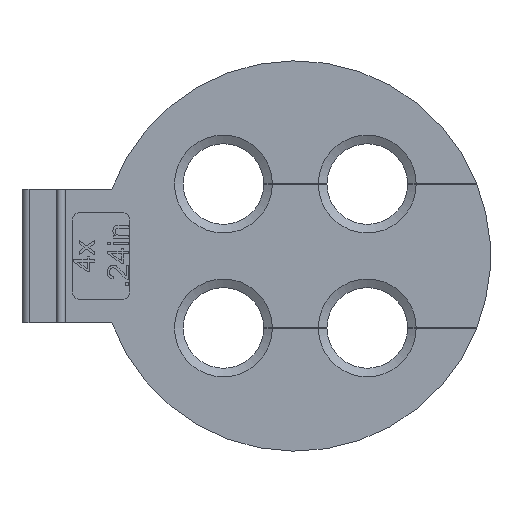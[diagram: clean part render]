
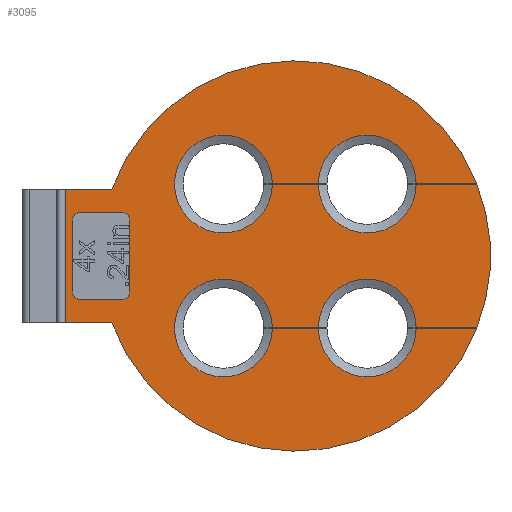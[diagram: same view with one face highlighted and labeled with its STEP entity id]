
A CAD part, left-side view. The second image highlights one B-rep face of the part: STEP entity #3095.
In plain terms, the highlighted planar face has unit normal (-1, 0, 0).
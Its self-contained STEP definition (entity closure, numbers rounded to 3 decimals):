
#65=FACE_BOUND('',#387,.T.);
#98=CIRCLE('',#3262,13.57);
#108=CIRCLE('',#3277,3.4);
#116=CIRCLE('',#3289,3.4);
#123=CIRCLE('',#3306,3.4);
#129=CIRCLE('',#3317,3.4);
#131=CIRCLE('',#3321,3.4);
#132=CIRCLE('',#3322,13.57);
#133=CIRCLE('',#3323,3.4);
#134=CIRCLE('',#3324,13.57);
#135=CIRCLE('',#3325,0.5);
#136=CIRCLE('',#3326,0.5);
#137=CIRCLE('',#3327,0.5);
#138=CIRCLE('',#3328,0.5);
#219=FACE_OUTER_BOUND('',#386,.T.);
#386=EDGE_LOOP('',(#2236,#2237,#2238,#2239,#2240,#2241,#2242,#2243,#2244,
#2245,#2246,#2247,#2248,#2249,#2250,#2251,#2252,#2253,#2254,#2255));
#387=EDGE_LOOP('',(#2256,#2257,#2258,#2259,#2260,#2261,#2262,#2263));
#539=LINE('',#4271,#898);
#555=LINE('',#4311,#914);
#566=LINE('',#4335,#925);
#570=LINE('',#4344,#929);
#597=LINE('',#4465,#956);
#607=LINE('',#4486,#966);
#610=LINE('',#4493,#969);
#618=LINE('',#4509,#977);
#627=LINE('',#4545,#986);
#628=LINE('',#4547,#987);
#629=LINE('',#4549,#988);
#630=LINE('',#4555,#989);
#631=LINE('',#4559,#990);
#632=LINE('',#4563,#991);
#633=LINE('',#4567,#992);
#898=VECTOR('',#3473,10.);
#914=VECTOR('',#3491,10.);
#925=VECTOR('',#3504,10.);
#929=VECTOR('',#3510,10.);
#956=VECTOR('',#3627,10.);
#966=VECTOR('',#3639,10.);
#969=VECTOR('',#3644,10.);
#977=VECTOR('',#3654,10.);
#986=VECTOR('',#3703,10.);
#987=VECTOR('',#3704,10.);
#988=VECTOR('',#3705,10.);
#989=VECTOR('',#3712,10.);
#990=VECTOR('',#3715,10.);
#991=VECTOR('',#3718,10.);
#992=VECTOR('',#3721,10.);
#1256=VERTEX_POINT('',#4267);
#1258=VERTEX_POINT('',#4270);
#1267=VERTEX_POINT('',#4291);
#1275=VERTEX_POINT('',#4309);
#1286=VERTEX_POINT('',#4332);
#1287=VERTEX_POINT('',#4334);
#1290=VERTEX_POINT('',#4341);
#1291=VERTEX_POINT('',#4343);
#1305=VERTEX_POINT('',#4377);
#1323=VERTEX_POINT('',#4450);
#1328=VERTEX_POINT('',#4463);
#1337=VERTEX_POINT('',#4483);
#1338=VERTEX_POINT('',#4485);
#1339=VERTEX_POINT('',#4489);
#1341=VERTEX_POINT('',#4492);
#1347=VERTEX_POINT('',#4506);
#1348=VERTEX_POINT('',#4508);
#1355=VERTEX_POINT('',#4544);
#1356=VERTEX_POINT('',#4546);
#1357=VERTEX_POINT('',#4548);
#1358=VERTEX_POINT('',#4553);
#1359=VERTEX_POINT('',#4554);
#1360=VERTEX_POINT('',#4556);
#1361=VERTEX_POINT('',#4558);
#1362=VERTEX_POINT('',#4560);
#1363=VERTEX_POINT('',#4562);
#1364=VERTEX_POINT('',#4564);
#1365=VERTEX_POINT('',#4566);
#1567=EDGE_CURVE('',#1258,#1256,#539,.T.);
#1585=EDGE_CURVE('',#1267,#1275,#555,.T.);
#1596=EDGE_CURVE('',#1287,#1286,#566,.T.);
#1600=EDGE_CURVE('',#1291,#1290,#570,.T.);
#1618=EDGE_CURVE('',#1305,#1275,#98,.T.);
#1635=EDGE_CURVE('',#1290,#1287,#108,.T.);
#1647=EDGE_CURVE('',#1286,#1267,#116,.T.);
#1659=EDGE_CURVE('',#1323,#1328,#597,.T.);
#1669=EDGE_CURVE('',#1338,#1337,#607,.T.);
#1672=EDGE_CURVE('',#1341,#1339,#610,.T.);
#1680=EDGE_CURVE('',#1348,#1347,#618,.T.);
#1691=EDGE_CURVE('',#1347,#1338,#123,.T.);
#1697=EDGE_CURVE('',#1339,#1348,#129,.T.);
#1699=EDGE_CURVE('',#1256,#1291,#131,.T.);
#1700=EDGE_CURVE('',#1305,#1355,#627,.T.);
#1701=EDGE_CURVE('',#1355,#1356,#628,.T.);
#1702=EDGE_CURVE('',#1356,#1357,#629,.T.);
#1703=EDGE_CURVE('',#1341,#1357,#132,.T.);
#1704=EDGE_CURVE('',#1337,#1323,#133,.T.);
#1705=EDGE_CURVE('',#1258,#1328,#134,.T.);
#1706=EDGE_CURVE('',#1358,#1359,#630,.T.);
#1707=EDGE_CURVE('',#1360,#1359,#135,.T.);
#1708=EDGE_CURVE('',#1360,#1361,#631,.T.);
#1709=EDGE_CURVE('',#1362,#1361,#136,.T.);
#1710=EDGE_CURVE('',#1362,#1363,#632,.T.);
#1711=EDGE_CURVE('',#1364,#1363,#137,.T.);
#1712=EDGE_CURVE('',#1364,#1365,#633,.T.);
#1713=EDGE_CURVE('',#1358,#1365,#138,.T.);
#2236=ORIENTED_EDGE('',*,*,#1567,.T.);
#2237=ORIENTED_EDGE('',*,*,#1699,.T.);
#2238=ORIENTED_EDGE('',*,*,#1600,.T.);
#2239=ORIENTED_EDGE('',*,*,#1635,.T.);
#2240=ORIENTED_EDGE('',*,*,#1596,.T.);
#2241=ORIENTED_EDGE('',*,*,#1647,.T.);
#2242=ORIENTED_EDGE('',*,*,#1585,.T.);
#2243=ORIENTED_EDGE('',*,*,#1618,.F.);
#2244=ORIENTED_EDGE('',*,*,#1700,.T.);
#2245=ORIENTED_EDGE('',*,*,#1701,.T.);
#2246=ORIENTED_EDGE('',*,*,#1702,.T.);
#2247=ORIENTED_EDGE('',*,*,#1703,.F.);
#2248=ORIENTED_EDGE('',*,*,#1672,.T.);
#2249=ORIENTED_EDGE('',*,*,#1697,.T.);
#2250=ORIENTED_EDGE('',*,*,#1680,.T.);
#2251=ORIENTED_EDGE('',*,*,#1691,.T.);
#2252=ORIENTED_EDGE('',*,*,#1669,.T.);
#2253=ORIENTED_EDGE('',*,*,#1704,.T.);
#2254=ORIENTED_EDGE('',*,*,#1659,.T.);
#2255=ORIENTED_EDGE('',*,*,#1705,.F.);
#2256=ORIENTED_EDGE('',*,*,#1706,.T.);
#2257=ORIENTED_EDGE('',*,*,#1707,.F.);
#2258=ORIENTED_EDGE('',*,*,#1708,.T.);
#2259=ORIENTED_EDGE('',*,*,#1709,.F.);
#2260=ORIENTED_EDGE('',*,*,#1710,.T.);
#2261=ORIENTED_EDGE('',*,*,#1711,.F.);
#2262=ORIENTED_EDGE('',*,*,#1712,.T.);
#2263=ORIENTED_EDGE('',*,*,#1713,.F.);
#2967=PLANE('',#3320);
#3095=ADVANCED_FACE('',(#219,#65),#2967,.F.);
#3262=AXIS2_PLACEMENT_3D('',#4379,#3539,#3540);
#3277=AXIS2_PLACEMENT_3D('',#4417,#3573,#3574);
#3289=AXIS2_PLACEMENT_3D('',#4439,#3601,#3602);
#3306=AXIS2_PLACEMENT_3D('',#4528,#3671,#3672);
#3317=AXIS2_PLACEMENT_3D('',#4539,#3693,#3694);
#3320=AXIS2_PLACEMENT_3D('',#4542,#3699,#3700);
#3321=AXIS2_PLACEMENT_3D('',#4543,#3701,#3702);
#3322=AXIS2_PLACEMENT_3D('',#4550,#3706,#3707);
#3323=AXIS2_PLACEMENT_3D('',#4551,#3708,#3709);
#3324=AXIS2_PLACEMENT_3D('',#4552,#3710,#3711);
#3325=AXIS2_PLACEMENT_3D('',#4557,#3713,#3714);
#3326=AXIS2_PLACEMENT_3D('',#4561,#3716,#3717);
#3327=AXIS2_PLACEMENT_3D('',#4565,#3719,#3720);
#3328=AXIS2_PLACEMENT_3D('',#4568,#3722,#3723);
#3473=DIRECTION('',(0.,1.,0.));
#3491=DIRECTION('',(0.,-1.,0.));
#3504=DIRECTION('',(0.,-1.,0.));
#3510=DIRECTION('',(0.,1.,0.));
#3539=DIRECTION('center_axis',(1.,0.,0.));
#3540=DIRECTION('ref_axis',(0.,0.,-1.));
#3573=DIRECTION('center_axis',(1.,0.,0.));
#3574=DIRECTION('ref_axis',(0.,0.,-1.));
#3601=DIRECTION('center_axis',(1.,0.,0.));
#3602=DIRECTION('ref_axis',(0.,1.,0.));
#3627=DIRECTION('',(0.,-1.,0.));
#3639=DIRECTION('',(0.,-1.,0.));
#3644=DIRECTION('',(0.,1.,0.));
#3654=DIRECTION('',(0.,1.,0.));
#3671=DIRECTION('center_axis',(1.,0.,0.));
#3672=DIRECTION('ref_axis',(0.,-1.,0.));
#3693=DIRECTION('center_axis',(1.,0.,0.));
#3694=DIRECTION('ref_axis',(0.,0.,1.));
#3699=DIRECTION('center_axis',(1.,0.,0.));
#3700=DIRECTION('ref_axis',(0.,0.,-1.));
#3701=DIRECTION('center_axis',(1.,0.,0.));
#3702=DIRECTION('ref_axis',(0.,1.,0.));
#3703=DIRECTION('',(0.,1.,0.));
#3704=DIRECTION('',(0.,0.,-1.));
#3705=DIRECTION('',(0.,-1.,0.));
#3706=DIRECTION('center_axis',(1.,0.,0.));
#3707=DIRECTION('ref_axis',(0.,0.,-1.));
#3708=DIRECTION('center_axis',(1.,0.,0.));
#3709=DIRECTION('ref_axis',(0.,0.,1.));
#3710=DIRECTION('center_axis',(1.,0.,0.));
#3711=DIRECTION('ref_axis',(0.,0.,-1.));
#3712=DIRECTION('',(0.,1.,0.));
#3713=DIRECTION('center_axis',(-1.,0.,0.));
#3714=DIRECTION('ref_axis',(0.,0.707,-0.707));
#3715=DIRECTION('',(0.,0.,1.));
#3716=DIRECTION('center_axis',(-1.,0.,0.));
#3717=DIRECTION('ref_axis',(0.,0.707,0.707));
#3718=DIRECTION('',(0.,-1.,0.));
#3719=DIRECTION('center_axis',(-1.,0.,0.));
#3720=DIRECTION('ref_axis',(0.,-0.707,0.707));
#3721=DIRECTION('',(0.,0.,-1.));
#3722=DIRECTION('center_axis',(-1.,0.,0.));
#3723=DIRECTION('ref_axis',(0.,-0.707,-0.707));
#4267=CARTESIAN_POINT('',(-0.8,-8.4,4.995));
#4270=CARTESIAN_POINT('',(-0.8,-12.617,4.995));
#4271=CARTESIAN_POINT('',(-0.8,-6.309,4.995));
#4291=CARTESIAN_POINT('',(-0.8,-8.4,5.005));
#4309=CARTESIAN_POINT('',(-0.8,-12.613,5.005));
#4311=CARTESIAN_POINT('',(-0.8,1.1,5.005));
#4332=CARTESIAN_POINT('',(-0.8,-1.6,5.005));
#4334=CARTESIAN_POINT('',(-0.8,1.6,5.005));
#4335=CARTESIAN_POINT('',(-0.8,1.1,5.005));
#4341=CARTESIAN_POINT('',(-0.8,1.6,4.995));
#4343=CARTESIAN_POINT('',(-0.8,-1.6,4.995));
#4344=CARTESIAN_POINT('',(-0.8,-6.309,4.995));
#4377=CARTESIAN_POINT('',(-0.8,12.748,4.65));
#4379=CARTESIAN_POINT('Origin',(-0.8,0.,0.));
#4417=CARTESIAN_POINT('Origin',(-0.8,5.,5.));
#4439=CARTESIAN_POINT('Origin',(-0.8,-5.,5.));
#4450=CARTESIAN_POINT('',(-0.8,-8.4,-4.995));
#4463=CARTESIAN_POINT('',(-0.8,-12.617,-4.995));
#4465=CARTESIAN_POINT('',(-0.8,-6.309,-4.995));
#4483=CARTESIAN_POINT('',(-0.8,-1.6,-4.995));
#4485=CARTESIAN_POINT('',(-0.8,1.6,-4.995));
#4486=CARTESIAN_POINT('',(-0.8,-6.309,-4.995));
#4489=CARTESIAN_POINT('',(-0.8,-8.4,-5.005));
#4492=CARTESIAN_POINT('',(-0.8,-12.613,-5.005));
#4493=CARTESIAN_POINT('',(-0.8,1.1,-5.005));
#4506=CARTESIAN_POINT('',(-0.8,1.6,-5.005));
#4508=CARTESIAN_POINT('',(-0.8,-1.6,-5.005));
#4509=CARTESIAN_POINT('',(-0.8,1.1,-5.005));
#4528=CARTESIAN_POINT('Origin',(-0.8,5.,-5.));
#4539=CARTESIAN_POINT('Origin',(-0.8,-5.,-5.));
#4542=CARTESIAN_POINT('Origin',(-0.8,0.,0.));
#4543=CARTESIAN_POINT('Origin',(-0.8,-5.,5.));
#4544=CARTESIAN_POINT('',(-0.8,16.,4.65));
#4545=CARTESIAN_POINT('',(-0.8,15.618,4.65));
#4546=CARTESIAN_POINT('',(-0.8,16.,-4.65));
#4547=CARTESIAN_POINT('',(-0.8,16.,2.325));
#4548=CARTESIAN_POINT('',(-0.8,12.748,-4.65));
#4549=CARTESIAN_POINT('',(-0.8,13.655,-4.65));
#4550=CARTESIAN_POINT('Origin',(-0.8,0.,0.));
#4551=CARTESIAN_POINT('Origin',(-0.8,-5.,-5.));
#4552=CARTESIAN_POINT('Origin',(-0.8,0.,0.));
#4553=CARTESIAN_POINT('',(-0.8,12.,-3.));
#4554=CARTESIAN_POINT('',(-0.8,15.,-3.));
#4555=CARTESIAN_POINT('',(-0.8,7.75,-3.));
#4556=CARTESIAN_POINT('',(-0.8,15.5,-2.5));
#4557=CARTESIAN_POINT('Origin',(-0.8,15.,-2.5));
#4558=CARTESIAN_POINT('',(-0.8,15.5,2.5));
#4559=CARTESIAN_POINT('',(-0.8,15.5,1.5));
#4560=CARTESIAN_POINT('',(-0.8,15.,3.));
#4561=CARTESIAN_POINT('Origin',(-0.8,15.,2.5));
#4562=CARTESIAN_POINT('',(-0.8,12.,3.));
#4563=CARTESIAN_POINT('',(-0.8,5.75,3.));
#4564=CARTESIAN_POINT('',(-0.8,11.5,2.5));
#4565=CARTESIAN_POINT('Origin',(-0.8,12.,2.5));
#4566=CARTESIAN_POINT('',(-0.8,11.5,-2.5));
#4567=CARTESIAN_POINT('',(-0.8,11.5,-1.5));
#4568=CARTESIAN_POINT('Origin',(-0.8,12.,-2.5));
